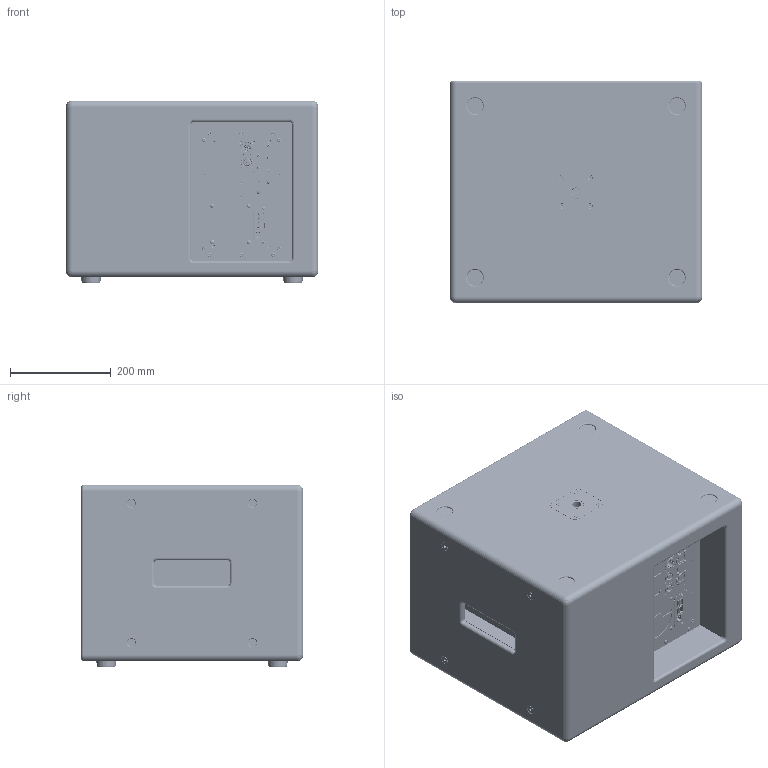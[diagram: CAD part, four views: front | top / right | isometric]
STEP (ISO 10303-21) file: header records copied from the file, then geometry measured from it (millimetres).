
FILE_DESCRIPTION(/* description */ (''),/* implementation_level */ '2;1');
FILE_NAME(/* name */ 'KS1 I',/* time_stamp */ '2026-03-12T15:46:17+01:00',/* author */ (''),/* organization */ (''),/* preprocessor_version */ 'ST-DEVELOPER v19.2',/* originating_system */ 'Rhino 8.24',/* authorisation */ '');
FILE_SCHEMA (('CONFIG_CONTROL_DESIGN'));
Products named in the file (36): Document; MCP139A10_03; VTA2,9X13STINO; VTM03X10STIN0; VTA03X10RTIN01; SPEAKONEUTRIKAUTO; MMBLC026; MCA139A01_04_MCA139A01VBS_05; MCP139A01_04_configurazione K-ARRAY; MCP139A13_02; M4X12 PERNO-A-SALDARE_M4H12_F; hexalobular socket pan head_iso_ISO 14583 - M3 x 6 x 5 - 4.8-N; PWRCONNTFMTRUE1; MCP141A13_03; pan head cross recess screw_iso_ISO 7045 - M5 x 25 - Z - 25N; MCP141A14_03; MCP141A16_01; Piedino 40x16; MCP141A10_01; VTM08X30TBBIN; MCP144A06_02; MCP141A12_02; MCP141A18_01; MCP141A17_01; MCP141A19_02; MCP141A15_03; MCP141A09_01; VTM05X25STIN0; VTM04X20BTIN0; VTM05X25BTINO_M5X30; LOGOKPICCOLO; MMBLC110; MCA141A03_02; MCP144A03_03; MCP141A04_01; VTM20X40TSBIX
Bounding box: 500 x 440 x 361.94 mm (x, y, z)
Volume: 12701554.6 mm3; surface area: 2928248.2 mm2
Topology: 110 solids, 110 shells, 9930 faces, 25917 edges, 16413 vertices
Faces by surface type: plane 4213, cylinder 3605, bspline 2112
Entity records: 295903 total; most frequent: CARTESIAN_POINT 128244, ORIENTED_EDGE 36858, EDGE_CURVE 18429, DIRECTION 14520, B_SPLINE_CURVE_WITH_KNOTS 13842, VERTEX_POINT 11759, AXIS2_PLACEMENT_3D 10136, EDGE_LOOP 7631
